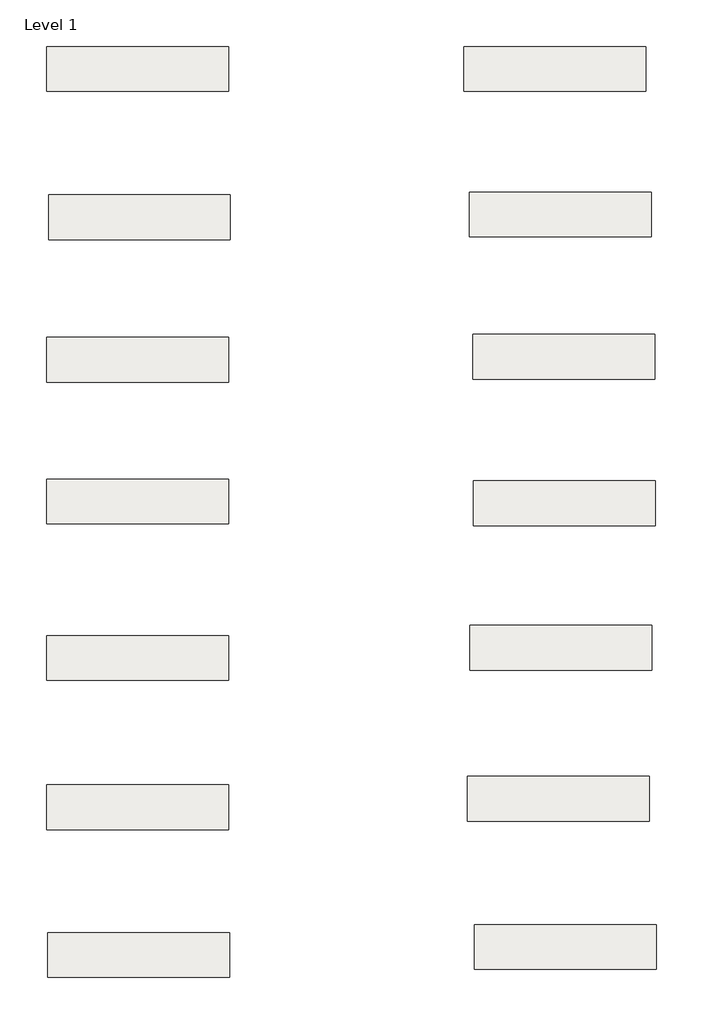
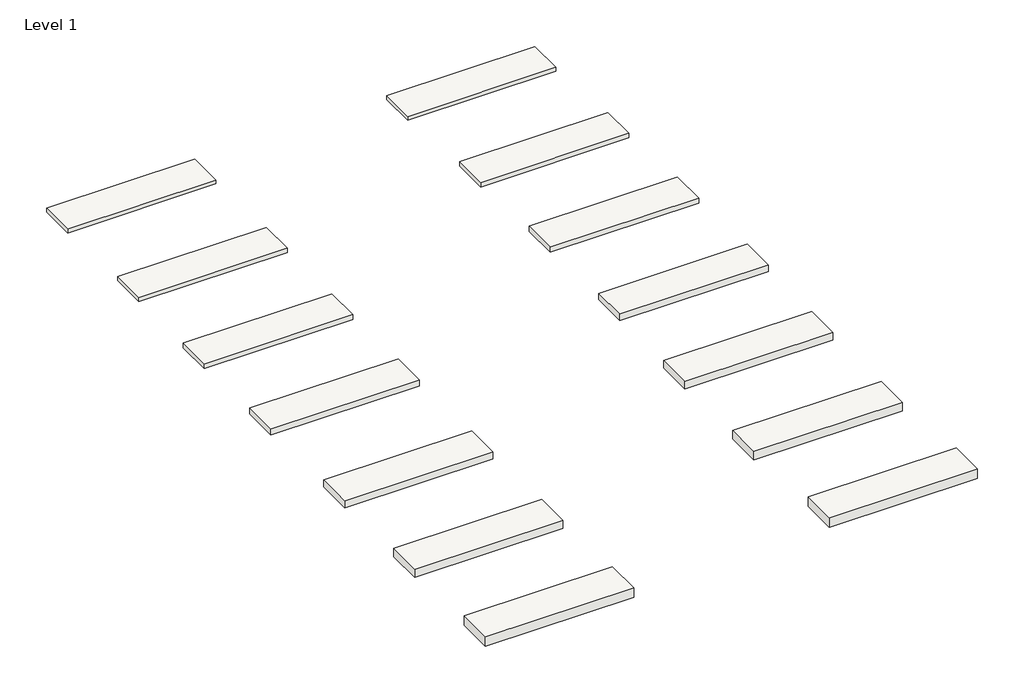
# One storey: 14 roofs.
"""IFC4 building model written with IfcOpenShell, lengths in millimetres."""

from ifc_helpers import new_model, si_unit, origin, origin_with_axes, place, context, project, spatial, polyline, outline, extrude, element, save

model = new_model("IFC4")

# Units and contexts
model_context = context("Model", 3, world=origin())
ifc_project = project(units=[si_unit("LENGTHUNIT", "METRE", prefix="MILLI")], contexts=[model_context])

# Site, building, storey
site = spatial("IfcSite", under=ifc_project)
building = spatial("IfcBuilding", under=site)
storey = spatial("IfcBuildingStorey", under=building, Name="Level 1", Elevation=0.0)

# Roofs
placement = place(None, origin())
element("IfcRoof", 1, ObjectType="Panel Thermochip TFH 9-40-16 (2440x600)", at=placement, inside=storey, context=model_context, shape_type="SweptSolid", body=[
    extrude(outline(polyline([(-22078.9678788, 6399.8223879), (-19638.9678788, 6399.8223879), (-19638.9678788, 5799.8223879), (-22078.9678788, 5799.8223879), (-22078.9678788, 6399.8223879)])), origin_with_axes(), (0.0, 0.0, 1.0), 65.0),
])
element("IfcRoof", 2, ObjectType="Panel Thermochip TFH 9-50-16 (2440x600)", at=placement, inside=storey, context=model_context, shape_type="SweptSolid", body=[
    extrude(outline(polyline([(-22052.6493894, 4410.3190053), (-19612.6493894, 4410.3190053), (-19612.6493894, 3810.3190053), (-22052.6493894, 3810.3190053), (-22052.6493894, 4410.3190053)])), origin_with_axes(), (0.0, 0.0, 1.0), 75.0),
])
element("IfcRoof", 3, ObjectType="Panel Thermochip TFH 9-60-16 (2440x600)", at=placement, inside=storey, context=model_context, shape_type="SweptSolid", body=[
    extrude(outline(polyline([(-22078.9678788, 2499.8223879), (-19638.9678788, 2499.8223879), (-19638.9678788, 1899.8223879), (-22078.9678788, 1899.8223879), (-22078.9678788, 2499.8223879)])), origin_with_axes(), (0.0, 0.0, 1.0), 85.0),
])
element("IfcRoof", 4, ObjectType="Panel Thermochip TFH 9-80-16 (2440x600)", at=placement, inside=storey, context=model_context, shape_type="SweptSolid", body=[
    extrude(outline(polyline([(-22078.9678788, 599.8223879), (-19638.9678788, 599.8223879), (-19638.9678788, -0.1776121), (-22078.9678788, -0.1776121), (-22078.9678788, 599.8223879)])), origin_with_axes(), (0.0, 0.0, 1.0), 105.0),
])
element("IfcRoof", 5, ObjectType="Panel Thermochip TFH 9-100-16 (2440x600)", at=placement, inside=storey, context=model_context, shape_type="SweptSolid", body=[
    extrude(outline(polyline([(-22078.9678788, -1500.1776121), (-19638.9678788, -1500.1776121), (-19638.9678788, -2100.1776121), (-22078.9678788, -2100.1776121), (-22078.9678788, -1500.1776121)])), origin_with_axes(), (0.0, 0.0, 1.0), 125.0),
])
element("IfcRoof", 6, ObjectType="Panel Thermochip TFH 9-120-16 (2440x600)", at=placement, inside=storey, context=model_context, shape_type="SweptSolid", body=[
    extrude(outline(polyline([(-22078.9678788, -3500.1776121), (-19638.9678788, -3500.1776121), (-19638.9678788, -4100.1776121), (-22078.9678788, -4100.1776121), (-22078.9678788, -3500.1776121)])), origin_with_axes(), (0.0, 0.0, 1.0), 145.0),
])
element("IfcRoof", 7, ObjectType="Panel Thermochip TFH 9-140-16 (2440x600)", at=placement, inside=storey, context=model_context, shape_type="SweptSolid", body=[
    extrude(outline(polyline([(-22061.6630448, -5482.8727782), (-19621.6630448, -5482.8727782), (-19621.6630448, -6082.8727782), (-22061.6630448, -6082.8727782), (-22061.6630448, -5482.8727782)])), origin_with_axes(), (0.0, 0.0, 1.0), 165.0),
])
element("IfcRoof", 8, ObjectType="Panel Thermochip TFH 9-40-19 (2440x600)", at=placement, inside=storey, context=model_context, shape_type="SweptSolid", body=[
    extrude(outline(polyline([(-16478.9678788, 6399.8223879), (-14038.9678788, 6399.8223879), (-14038.9678788, 5799.8223879), (-16478.9678788, 5799.8223879), (-16478.9678788, 6399.8223879)])), origin_with_axes(), (0.0, 0.0, 1.0), 68.0),
])
element("IfcRoof", 9, ObjectType="Panel Thermochip TFH 9-50-19 (2440x600)", at=placement, inside=storey, context=model_context, shape_type="SweptSolid", body=[
    extrude(outline(polyline([(-16405.8564252, 4446.4134612), (-13965.8564252, 4446.4134612), (-13965.8564252, 3846.4134612), (-16405.8564252, 3846.4134612), (-16405.8564252, 4446.4134612)])), origin_with_axes(), (0.0, 0.0, 1.0), 78.0),
])
element("IfcRoof", 10, ObjectType="Panel Thermochip TFH 9-60-19 (2440x600)", at=placement, inside=storey, context=model_context, shape_type="SweptSolid", body=[
    extrude(outline(polyline([(-16358.6086281, 2541.391354), (-13918.6086281, 2541.391354), (-13918.6086281, 1941.391354), (-16358.6086281, 1941.391354), (-16358.6086281, 2541.391354)])), origin_with_axes(), (0.0, 0.0, 1.0), 88.0),
])
element("IfcRoof", 11, ObjectType="Panel Thermochip TFH 9-80-19 (2440x600)", at=placement, inside=storey, context=model_context, shape_type="SweptSolid", body=[
    extrude(outline(polyline([(-16347.2954523, 576.6073898), (-13907.2954523, 576.6073898), (-13907.2954523, -23.3926102), (-16347.2954523, -23.3926102), (-16347.2954523, 576.6073898)])), origin_with_axes(), (0.0, 0.0, 1.0), 108.0),
])
element("IfcRoof", 12, ObjectType="Panel Thermochip TFH 9-100-19 (2440x600)", at=placement, inside=storey, context=model_context, shape_type="SweptSolid", body=[
    extrude(outline(polyline([(-16398.0967454, -1361.1337657), (-13958.0967454, -1361.1337657), (-13958.0967454, -1961.1337657), (-16398.0967454, -1961.1337657), (-16398.0967454, -1361.1337657)])), origin_with_axes(), (0.0, 0.0, 1.0), 128.0),
])
element("IfcRoof", 13, ObjectType="Panel Thermochip TFH 9-120-19 (2440x600)", at=placement, inside=storey, context=model_context, shape_type="SweptSolid", body=[
    extrude(outline(polyline([(-16428.9678788, -3386.2646749), (-13988.9678788, -3386.2646749), (-13988.9678788, -3986.2646749), (-16428.9678788, -3986.2646749), (-16428.9678788, -3386.2646749)])), origin_with_axes(), (0.0, 0.0, 1.0), 148.0),
])
element("IfcRoof", 14, ObjectType="Panel Thermochip TFH 9-140-19 (2440x600)", at=placement, inside=storey, context=model_context, shape_type="SweptSolid", body=[
    extrude(outline(polyline([(-16336.3058558, -5374.3796186), (-13896.3058558, -5374.3796186), (-13896.3058558, -5974.3796186), (-16336.3058558, -5974.3796186), (-16336.3058558, -5374.3796186)])), origin_with_axes(), (0.0, 0.0, 1.0), 168.0),
])

save(model, "model.ifc")
